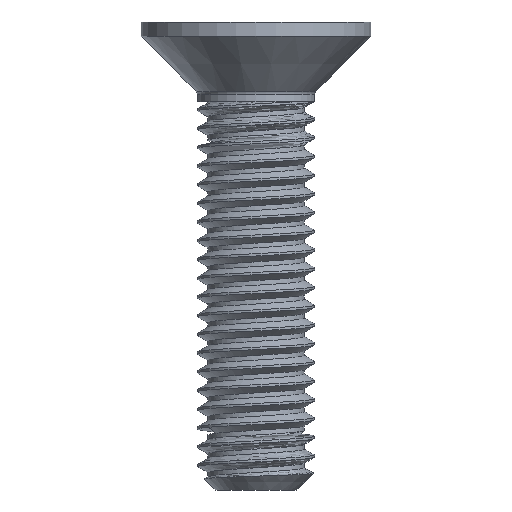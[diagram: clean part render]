
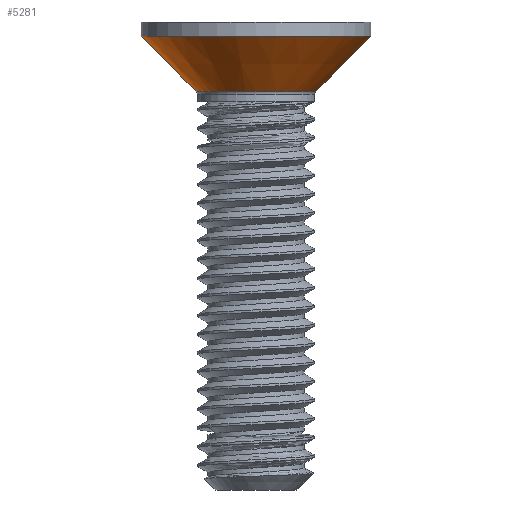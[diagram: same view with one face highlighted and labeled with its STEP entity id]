
A CAD part, front view. The second image highlights one B-rep face of the part: STEP entity #5281.
In plain terms, the highlighted conical face has half-angle 45 degrees and reference radius 4.9 mm.
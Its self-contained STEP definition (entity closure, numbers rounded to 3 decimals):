
#60 = EDGE_LOOP ( 'NONE', ( #763, #2787, #6321, #3889 ) ) ;
#204 = VERTEX_POINT ( 'NONE', #5741 ) ;
#398 = VERTEX_POINT ( 'NONE', #2245 ) ;
#652 = AXIS2_PLACEMENT_3D ( 'NONE', #5542, #7316, #2931 ) ;
#763 = ORIENTED_EDGE ( 'NONE', *, *, #1612, .F. ) ;
#767 = CARTESIAN_POINT ( 'NONE',  ( 4.9, 0., -0.617 ) ) ;
#878 = EDGE_CURVE ( 'NONE', #398, #5699, #1370, .T. ) ;
#958 = DIRECTION ( 'NONE',  ( 1., 0., 0. ) ) ;
#1129 = CARTESIAN_POINT ( 'NONE',  ( 4.9, 0., -0.617 ) ) ;
#1370 = LINE ( 'NONE', #767, #1624 ) ;
#1400 = DIRECTION ( 'NONE',  ( 0., 0., -1. ) ) ;
#1612 = EDGE_CURVE ( 'NONE', #204, #3078, #5240, .T. ) ;
#1624 = VECTOR ( 'NONE', #4998, 1000. ) ;
#1956 = AXIS2_PLACEMENT_3D ( 'NONE', #4381, #2694, #958 ) ;
#2245 = CARTESIAN_POINT ( 'NONE',  ( 2.559, 0., -2.959 ) ) ;
#2325 = AXIS2_PLACEMENT_3D ( 'NONE', #4604, #1400, #6256 ) ;
#2694 = DIRECTION ( 'NONE',  ( 0., 0., 1. ) ) ;
#2787 = ORIENTED_EDGE ( 'NONE', *, *, #3932, .F. ) ;
#2931 = DIRECTION ( 'NONE',  ( -1., 0., 0. ) ) ;
#3078 = VERTEX_POINT ( 'NONE', #6939 ) ;
#3881 = FACE_OUTER_BOUND ( 'NONE', #60, .T. ) ;
#3889 = ORIENTED_EDGE ( 'NONE', *, *, #4457, .T. ) ;
#3932 = EDGE_CURVE ( 'NONE', #398, #204, #6826, .T. ) ;
#4203 = DIRECTION ( 'NONE',  ( -0.707, 0., 0.707 ) ) ;
#4381 = CARTESIAN_POINT ( 'NONE',  ( 0., 0., -0.617 ) ) ;
#4457 = EDGE_CURVE ( 'NONE', #5699, #3078, #5844, .T. ) ;
#4604 = CARTESIAN_POINT ( 'NONE',  ( 0., 0., -0.617 ) ) ;
#4998 = DIRECTION ( 'NONE',  ( 0.707, 0., 0.707 ) ) ;
#5240 = LINE ( 'NONE', #7174, #5963 ) ;
#5249 = CONICAL_SURFACE ( 'NONE', #1956, 4.9, 0.785 ) ;
#5281 = ADVANCED_FACE ( 'NONE', ( #3881 ), #5249, .T. ) ;
#5542 = CARTESIAN_POINT ( 'NONE',  ( 0., 0., -2.959 ) ) ;
#5699 = VERTEX_POINT ( 'NONE', #1129 ) ;
#5741 = CARTESIAN_POINT ( 'NONE',  ( -2.559, 0., -2.959 ) ) ;
#5844 = CIRCLE ( 'NONE', #2325, 4.9 ) ;
#5963 = VECTOR ( 'NONE', #4203, 1000. ) ;
#6256 = DIRECTION ( 'NONE',  ( -1., 0., 0. ) ) ;
#6321 = ORIENTED_EDGE ( 'NONE', *, *, #878, .T. ) ;
#6826 = CIRCLE ( 'NONE', #652, 2.559 ) ;
#6939 = CARTESIAN_POINT ( 'NONE',  ( -4.9, 0., -0.617 ) ) ;
#7174 = CARTESIAN_POINT ( 'NONE',  ( -4.9, 0., -0.617 ) ) ;
#7316 = DIRECTION ( 'NONE',  ( 0., 0., -1. ) ) ;
